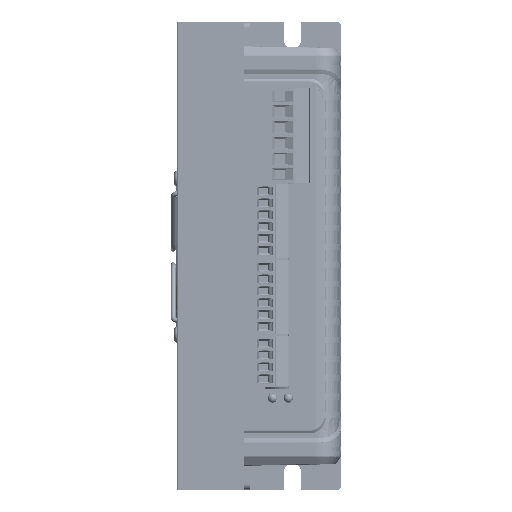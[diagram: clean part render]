
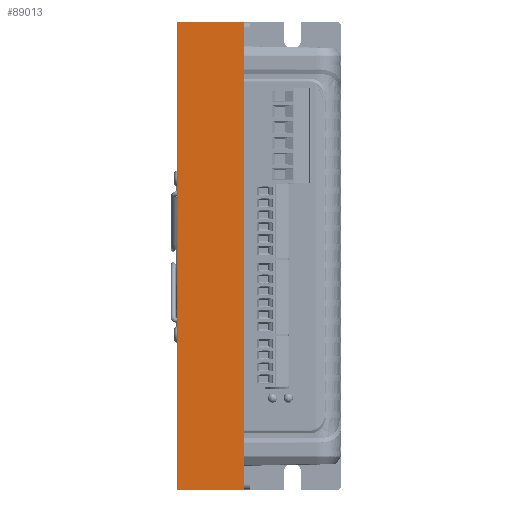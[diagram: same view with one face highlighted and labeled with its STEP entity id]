
A CAD part, front view. The second image highlights one B-rep face of the part: STEP entity #89013.
In plain terms, the highlighted planar face has unit normal (0, -1, 0).
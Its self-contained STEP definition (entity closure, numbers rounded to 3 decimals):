
#5370 = DIRECTION ( 'NONE',  ( 0., 0., -1. ) ) ;
#5372 = VECTOR ( 'NONE', #5370, 1000. ) ;
#5411 = CARTESIAN_POINT ( 'NONE',  ( -25.8, -52.293, 150. ) ) ;
#5412 = LINE ( 'NONE', #5411, #5372 ) ;
#5562 = CARTESIAN_POINT ( 'NONE',  ( -25.8, -52.293, 0. ) ) ;
#5642 = CARTESIAN_POINT ( 'NONE',  ( -4.7, -52.293, 0. ) ) ;
#5645 = AXIS2_PLACEMENT_3D ( 'NONE', #5831, #5830, #5828 ) ;
#5650 = FACE_OUTER_BOUND ( 'NONE', #88994, .T. ) ;
#5682 = VECTOR ( 'NONE', #5694, 1000. ) ;
#5694 = DIRECTION ( 'NONE',  ( 1., 0., 0. ) ) ;
#5703 = PLANE ( 'NONE',  #5645 ) ;
#5709 = CARTESIAN_POINT ( 'NONE',  ( -25.8, -52.293, 0. ) ) ;
#5710 = LINE ( 'NONE', #5709, #5682 ) ;
#5808 = DIRECTION ( 'NONE',  ( 0., 0., -1. ) ) ;
#5810 = VECTOR ( 'NONE', #5808, 1000. ) ;
#5813 = CARTESIAN_POINT ( 'NONE',  ( -4.7, -52.293, 150. ) ) ;
#5828 = DIRECTION ( 'NONE',  ( 0., 0., 1. ) ) ;
#5830 = DIRECTION ( 'NONE',  ( 0., 1., 0. ) ) ;
#5831 = CARTESIAN_POINT ( 'NONE',  ( -25.8, -52.293, 150. ) ) ;
#5834 = LINE ( 'NONE', #5813, #5810 ) ;
#14002 = VERTEX_POINT ( 'NONE', #101771 ) ;
#14019 = VERTEX_POINT ( 'NONE', #101689 ) ;
#14110 = EDGE_CURVE ( 'NONE', #14002, #14019, #101479, .T. ) ;
#88855 = EDGE_CURVE ( 'NONE', #14002, #88912, #5412, .T. ) ;
#88912 = VERTEX_POINT ( 'NONE', #5562 ) ;
#88977 = EDGE_CURVE ( 'NONE', #88912, #89015, #5710, .T. ) ;
#88994 = EDGE_LOOP ( 'NONE', ( #88997, #89031, #89026, #89038 ) ) ;
#88997 = ORIENTED_EDGE ( 'NONE', *, *, #88977, .T. ) ;
#89013 = ADVANCED_FACE ( 'NONE', ( #5650 ), #5703, .F. ) ;
#89015 = VERTEX_POINT ( 'NONE', #5642 ) ;
#89022 = EDGE_CURVE ( 'NONE', #14019, #89015, #5834, .T. ) ;
#89026 = ORIENTED_EDGE ( 'NONE', *, *, #14110, .F. ) ;
#89031 = ORIENTED_EDGE ( 'NONE', *, *, #89022, .F. ) ;
#89038 = ORIENTED_EDGE ( 'NONE', *, *, #88855, .T. ) ;
#101440 = DIRECTION ( 'NONE',  ( 1., 0., 0. ) ) ;
#101443 = VECTOR ( 'NONE', #101440, 1000. ) ;
#101456 = CARTESIAN_POINT ( 'NONE',  ( -25.8, -52.293, 150. ) ) ;
#101479 = LINE ( 'NONE', #101456, #101443 ) ;
#101689 = CARTESIAN_POINT ( 'NONE',  ( -4.7, -52.293, 150. ) ) ;
#101771 = CARTESIAN_POINT ( 'NONE',  ( -25.8, -52.293, 150. ) ) ;
